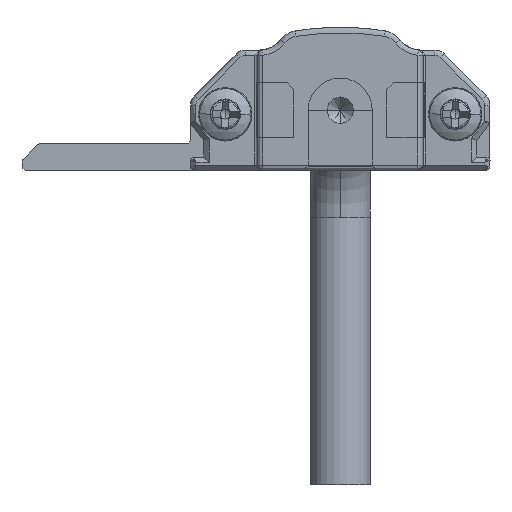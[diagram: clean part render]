
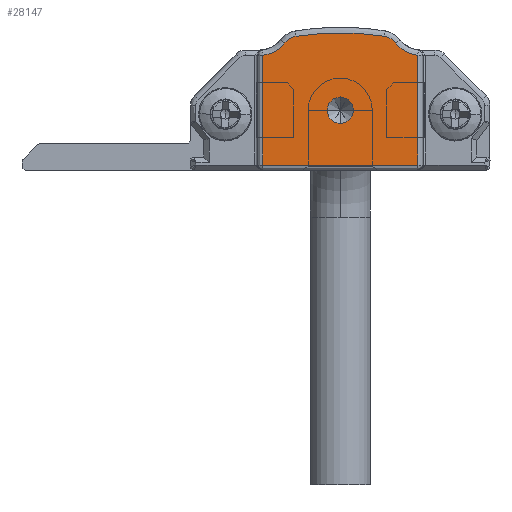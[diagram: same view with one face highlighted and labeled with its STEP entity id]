
A CAD part, front view. The second image highlights one B-rep face of the part: STEP entity #28147.
In plain terms, the highlighted planar face has unit normal (0, -1, 0).
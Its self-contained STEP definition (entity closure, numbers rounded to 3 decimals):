
#211 = CARTESIAN_POINT ( 'NONE',  ( 17.238, -15., 11. ) ) ;
#657 = DIRECTION ( 'NONE',  ( 0., 0., 1. ) ) ;
#760 = DIRECTION ( 'NONE',  ( 0., 0., -1. ) ) ;
#1037 = AXIS2_PLACEMENT_3D ( 'NONE', #4966, #12605, #2598 ) ;
#1371 = VERTEX_POINT ( 'NONE', #16056 ) ;
#1762 = DIRECTION ( 'NONE',  ( 0., 0., -1. ) ) ;
#2203 = DIRECTION ( 'NONE',  ( 0., -1., 0. ) ) ;
#2335 = CIRCLE ( 'NONE', #5350, 1. ) ;
#2484 = CARTESIAN_POINT ( 'NONE',  ( 11.2, -15., 3.5 ) ) ;
#2598 = DIRECTION ( 'NONE',  ( 0., 0., -1. ) ) ;
#3321 = CARTESIAN_POINT ( 'NONE',  ( 11.2, -15., 4.5 ) ) ;
#3854 = ORIENTED_EDGE ( 'NONE', *, *, #28765, .T. ) ;
#3892 = CARTESIAN_POINT ( 'NONE',  ( 17., -15., 8.612 ) ) ;
#4404 = CARTESIAN_POINT ( 'NONE',  ( 22.15, -15., 3.606 ) ) ;
#4437 = VERTEX_POINT ( 'NONE', #28086 ) ;
#4522 = EDGE_CURVE ( 'NONE', #24435, #28604, #13705, .T. ) ;
#4724 = FACE_OUTER_BOUND ( 'NONE', #25588, .T. ) ;
#4966 = CARTESIAN_POINT ( 'NONE',  ( 14.3, -15., 8.75 ) ) ;
#5014 = ORIENTED_EDGE ( 'NONE', *, *, #20710, .T. ) ;
#5350 = AXIS2_PLACEMENT_3D ( 'NONE', #30715, #13963, #28493 ) ;
#6117 = DIRECTION ( 'NONE',  ( 0., 0., -1. ) ) ;
#6754 = EDGE_LOOP ( 'NONE', ( #14915, #11718 ) ) ;
#6784 = DIRECTION ( 'NONE',  ( 0., 0., -1. ) ) ;
#7029 = LINE ( 'NONE', #16786, #10480 ) ;
#7699 = EDGE_CURVE ( 'NONE', #9526, #29906, #2335, .T. ) ;
#8399 = ORIENTED_EDGE ( 'NONE', *, *, #10756, .T. ) ;
#9526 = VERTEX_POINT ( 'NONE', #2484 ) ;
#9846 = ORIENTED_EDGE ( 'NONE', *, *, #10443, .T. ) ;
#9909 = DIRECTION ( 'NONE',  ( 0., 1., 0. ) ) ;
#10169 = EDGE_CURVE ( 'NONE', #4437, #24435, #10488, .T. ) ;
#10443 = EDGE_CURVE ( 'NONE', #26071, #23238, #18248, .T. ) ;
#10480 = VECTOR ( 'NONE', #12287, 1000. ) ;
#10488 = CIRCLE ( 'NONE', #29393, 20.676 ) ;
#10756 = EDGE_CURVE ( 'NONE', #16790, #27227, #16589, .T. ) ;
#11146 = CARTESIAN_POINT ( 'NONE',  ( 8.1, -15., 8.75 ) ) ;
#11166 = ORIENTED_EDGE ( 'NONE', *, *, #18192, .T. ) ;
#11718 = ORIENTED_EDGE ( 'NONE', *, *, #15432, .F. ) ;
#12287 = DIRECTION ( 'NONE',  ( 0., 0., -1. ) ) ;
#12347 = CARTESIAN_POINT ( 'NONE',  ( 5.4, -15., 0.4 ) ) ;
#12605 = DIRECTION ( 'NONE',  ( 0., -1., 0. ) ) ;
#12898 = AXIS2_PLACEMENT_3D ( 'NONE', #4404, #2203, #6784 ) ;
#13299 = DIRECTION ( 'NONE',  ( 0., 1., 0. ) ) ;
#13705 = CIRCLE ( 'NONE', #30037, 1.3 ) ;
#13963 = DIRECTION ( 'NONE',  ( 0., -1., 0. ) ) ;
#14214 = ORIENTED_EDGE ( 'NONE', *, *, #4522, .T. ) ;
#14669 = DIRECTION ( 'NONE',  ( 0., 0., -1. ) ) ;
#14915 = ORIENTED_EDGE ( 'NONE', *, *, #7699, .F. ) ;
#15432 = EDGE_CURVE ( 'NONE', #29906, #9526, #20844, .T. ) ;
#16056 = CARTESIAN_POINT ( 'NONE',  ( 5.4, -15., 8.612 ) ) ;
#16144 = EDGE_CURVE ( 'NONE', #27227, #4437, #24478, .T. ) ;
#16322 = DIRECTION ( 'NONE',  ( 1., 0., 0. ) ) ;
#16589 = CIRCLE ( 'NONE', #20651, 2.4 ) ;
#16786 = CARTESIAN_POINT ( 'NONE',  ( 5.4, -15., 0.4 ) ) ;
#16790 = VERTEX_POINT ( 'NONE', #3892 ) ;
#17436 = CIRCLE ( 'NONE', #30205, 2.4 ) ;
#17553 = LINE ( 'NONE', #17723, #30615 ) ;
#17653 = CARTESIAN_POINT ( 'NONE',  ( 17., -15., 0.4 ) ) ;
#17723 = CARTESIAN_POINT ( 'NONE',  ( 17., -15., 8.612 ) ) ;
#18192 = EDGE_CURVE ( 'NONE', #28604, #1371, #17436, .T. ) ;
#18218 = CARTESIAN_POINT ( 'NONE',  ( 7.068, -15., 9.541 ) ) ;
#18248 = LINE ( 'NONE', #23636, #29891 ) ;
#18921 = FACE_BOUND ( 'NONE', #6754, .T. ) ;
#19687 = CARTESIAN_POINT ( 'NONE',  ( 11.2, -15., 5.5 ) ) ;
#20356 = CARTESIAN_POINT ( 'NONE',  ( 11.2, -15., -10.376 ) ) ;
#20478 = CARTESIAN_POINT ( 'NONE',  ( 5.162, -15., 11. ) ) ;
#20651 = AXIS2_PLACEMENT_3D ( 'NONE', #211, #9909, #30490 ) ;
#20710 = EDGE_CURVE ( 'NONE', #23238, #16790, #17553, .T. ) ;
#20844 = CIRCLE ( 'NONE', #31590, 1. ) ;
#21649 = CARTESIAN_POINT ( 'NONE',  ( 7.892, -15., 10.034 ) ) ;
#22433 = DIRECTION ( 'NONE',  ( 0., -1., 0. ) ) ;
#23102 = DIRECTION ( 'NONE',  ( 0., -1., 0. ) ) ;
#23238 = VERTEX_POINT ( 'NONE', #17653 ) ;
#23636 = CARTESIAN_POINT ( 'NONE',  ( 17., -15., 0.4 ) ) ;
#24435 = VERTEX_POINT ( 'NONE', #21649 ) ;
#24478 = CIRCLE ( 'NONE', #1037, 1.3 ) ;
#25588 = EDGE_LOOP ( 'NONE', ( #5014, #8399, #29002, #30375, #14214, #11166, #3854, #9846 ) ) ;
#26071 = VERTEX_POINT ( 'NONE', #12347 ) ;
#26432 = PLANE ( 'NONE',  #12898 ) ;
#26814 = DIRECTION ( 'NONE',  ( 0., -1., 0. ) ) ;
#27227 = VERTEX_POINT ( 'NONE', #31286 ) ;
#28086 = CARTESIAN_POINT ( 'NONE',  ( 14.508, -15., 10.034 ) ) ;
#28147 = ADVANCED_FACE ( 'NONE', ( #4724, #18921 ), #26432, .T. ) ;
#28493 = DIRECTION ( 'NONE',  ( 0., 0., -1. ) ) ;
#28604 = VERTEX_POINT ( 'NONE', #18218 ) ;
#28765 = EDGE_CURVE ( 'NONE', #1371, #26071, #7029, .T. ) ;
#29002 = ORIENTED_EDGE ( 'NONE', *, *, #16144, .T. ) ;
#29393 = AXIS2_PLACEMENT_3D ( 'NONE', #20356, #26814, #14669 ) ;
#29891 = VECTOR ( 'NONE', #16322, 1000. ) ;
#29906 = VERTEX_POINT ( 'NONE', #19687 ) ;
#30037 = AXIS2_PLACEMENT_3D ( 'NONE', #11146, #23102, #1762 ) ;
#30205 = AXIS2_PLACEMENT_3D ( 'NONE', #20478, #13299, #6117 ) ;
#30375 = ORIENTED_EDGE ( 'NONE', *, *, #10169, .T. ) ;
#30490 = DIRECTION ( 'NONE',  ( 0., 0., -1. ) ) ;
#30615 = VECTOR ( 'NONE', #657, 1000. ) ;
#30715 = CARTESIAN_POINT ( 'NONE',  ( 11.2, -15., 4.5 ) ) ;
#31286 = CARTESIAN_POINT ( 'NONE',  ( 15.332, -15., 9.541 ) ) ;
#31590 = AXIS2_PLACEMENT_3D ( 'NONE', #3321, #22433, #760 ) ;
